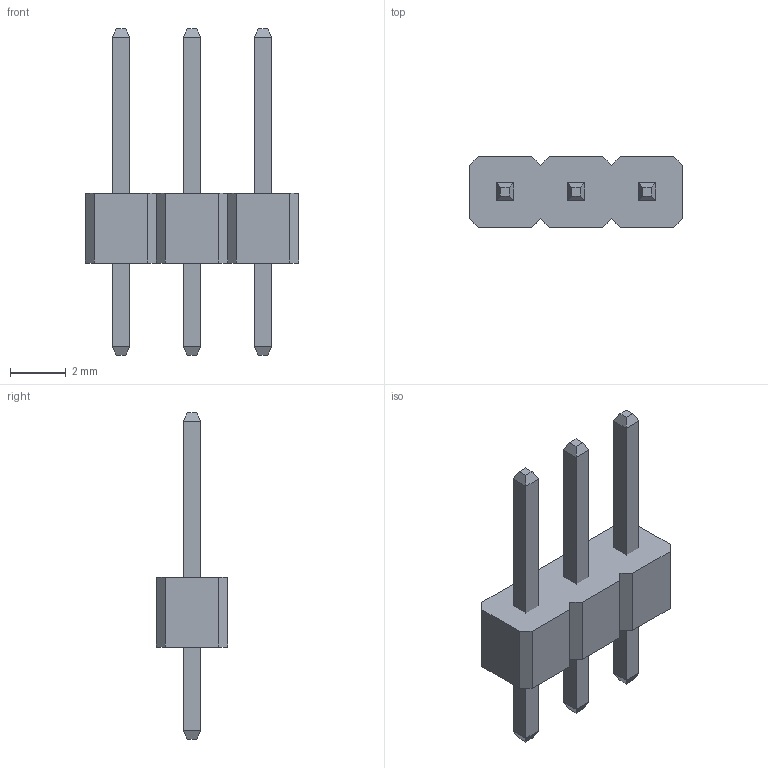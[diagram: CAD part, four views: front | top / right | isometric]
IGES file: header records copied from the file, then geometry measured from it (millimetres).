
Start section: Data from Parasolid IGES Translator 23.1.110, Copyright(c) 2006 Siemens PLM Software. All Rights Reserved.
Global section: file name: 5f3dd475933f190f816bc99f.iges; native system: By Siemens PLM Incorporated; preprocessor: XPlus GENERIC/IGES 23.1.110; author: Noname; organization: Noname; date: 20200820.014005; units: metre
Bounding box: 7.62 x 2.54 x 11.68 mm (x, y, z)
Surface area: 181 mm2 (no closed solid volume)
Topology: 0 solids, 0 shells, 82 faces, 360 edges, 360 vertices
Faces by surface type: extrusion 82
